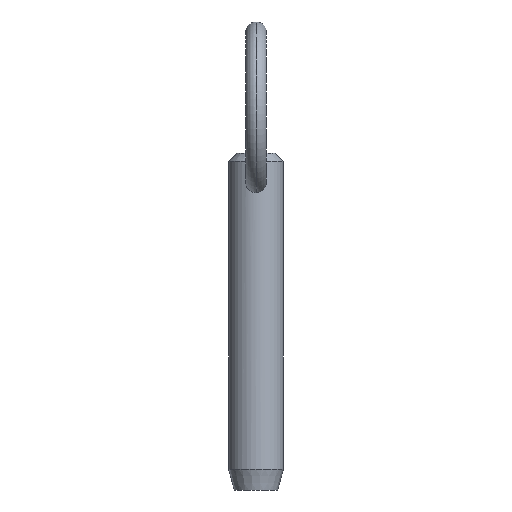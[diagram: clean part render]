
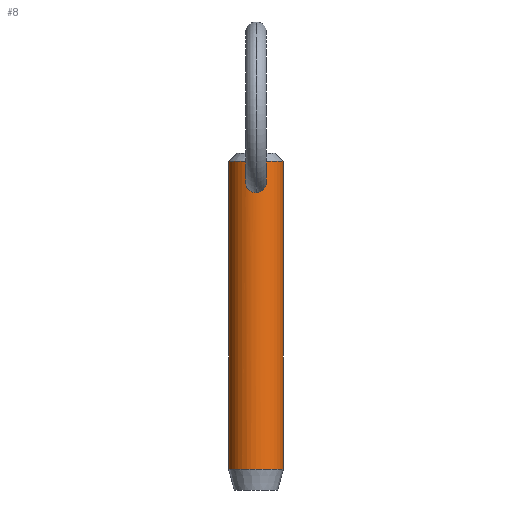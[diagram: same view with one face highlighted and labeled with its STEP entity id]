
A CAD part, front view. The second image highlights one B-rep face of the part: STEP entity #8.
In plain terms, the highlighted cylindrical face has radius 3.965 mm (diameter 7.93 mm), a partial arc.
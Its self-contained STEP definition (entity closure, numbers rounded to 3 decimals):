
#1 = EDGE_LOOP ( 'NONE', ( #259, #212, #114, #103 ) ) ;
#5 = CARTESIAN_POINT ( 'NONE',  ( 0.409, -3.948, 33.674 ) ) ;
#6 = DIRECTION ( 'NONE',  ( 0., 0., -1. ) ) ;
#8 = ADVANCED_FACE ( 'NONE', ( #295, #386 ), #202, .T. ) ;
#14 = CARTESIAN_POINT ( 'NONE',  ( -1.379, -3.718, 34.503 ) ) ;
#21 = CARTESIAN_POINT ( 'NONE',  ( -1.488, -3.675, 35.405 ) ) ;
#23 = CARTESIAN_POINT ( 'NONE',  ( -0.403, -3.946, 36.782 ) ) ;
#25 = CARTESIAN_POINT ( 'NONE',  ( 3.965, 0., 38.15 ) ) ;
#34 = VERTEX_POINT ( 'NONE', #128 ) ;
#36 = EDGE_CURVE ( 'NONE', #190, #323, #96, .T. ) ;
#42 = CARTESIAN_POINT ( 'NONE',  ( 1.493, -3.673, 35.304 ) ) ;
#50 = CARTESIAN_POINT ( 'NONE',  ( 0.205, -3.965, 33.635 ) ) ;
#53 = CARTESIAN_POINT ( 'NONE',  ( -1.441, -3.695, 35.608 ) ) ;
#56 = CARTESIAN_POINT ( 'NONE',  ( -1.335, -3.734, 34.41 ) ) ;
#57 = CARTESIAN_POINT ( 'NONE',  ( -1.48, -3.679, 34.789 ) ) ;
#58 = CARTESIAN_POINT ( 'NONE',  ( -0.77, -3.894, 36.6 ) ) ;
#60 = DIRECTION ( 'NONE',  ( 0., 0., -1. ) ) ;
#74 = CIRCLE ( 'NONE', #378, 3.965 ) ;
#76 = CARTESIAN_POINT ( 'NONE',  ( 1.186, -3.786, 36.159 ) ) ;
#77 = EDGE_CURVE ( 'NONE', #155, #34, #149, .T. ) ;
#78 = CARTESIAN_POINT ( 'NONE',  ( 1.503, -3.669, 35.099 ) ) ;
#83 = CARTESIAN_POINT ( 'NONE',  ( 0., 0., 33. ) ) ;
#86 = DIRECTION ( 'NONE',  ( -1., 0., 0. ) ) ;
#89 = CARTESIAN_POINT ( 'NONE',  ( 0., -3.965, 33.635 ) ) ;
#95 = CARTESIAN_POINT ( 'NONE',  ( -1.29, -3.75, 35.985 ) ) ;
#96 = CIRCLE ( 'NONE', #209, 3.965 ) ;
#98 = CARTESIAN_POINT ( 'NONE',  ( -0.206, -3.961, 36.834 ) ) ;
#103 = ORIENTED_EDGE ( 'NONE', *, *, #36, .T. ) ;
#114 = ORIENTED_EDGE ( 'NONE', *, *, #125, .T. ) ;
#117 = CARTESIAN_POINT ( 'NONE',  ( 1.346, -3.73, 34.408 ) ) ;
#121 = CARTESIAN_POINT ( 'NONE',  ( 0.205, -3.961, 36.834 ) ) ;
#124 = CARTESIAN_POINT ( 'NONE',  ( 0.102, -3.965, 36.847 ) ) ;
#125 = EDGE_CURVE ( 'NONE', #393, #190, #443, .T. ) ;
#128 = CARTESIAN_POINT ( 'NONE',  ( 0., -3.965, 36.847 ) ) ;
#139 = CARTESIAN_POINT ( 'NONE',  ( -0.957, -3.85, 33.941 ) ) ;
#142 = CARTESIAN_POINT ( 'NONE',  ( 3.965, 0., 33. ) ) ;
#149 = B_SPLINE_CURVE_WITH_KNOTS ( 'NONE', 3,
 ( #291, #331, #176, #296, #139, #419, #210, #56, #14, #57, #288, #21, #53, #95, #377, #178, #58, #332, #23, #98, #379, #326 ),
 .UNSPECIFIED., .F., .F.,
 ( 4, 2, 2, 2, 2, 2, 2, 2, 2, 2, 4 ),
 ( 0.009, 0.01, 0.01, 0.011, 0.011, 0.012, 0.012, 0.013, 0.013, 0.014, 0.014 ),
 .UNSPECIFIED. ) ;
#155 = VERTEX_POINT ( 'NONE', #426 ) ;
#159 = CARTESIAN_POINT ( 'NONE',  ( 1.434, -3.697, 35.605 ) ) ;
#163 = CARTESIAN_POINT ( 'NONE',  ( 1.237, -3.77, 34.231 ) ) ;
#164 = CARTESIAN_POINT ( 'NONE',  ( 0.77, -3.894, 36.6 ) ) ;
#176 = CARTESIAN_POINT ( 'NONE',  ( -0.41, -3.948, 33.674 ) ) ;
#178 = CARTESIAN_POINT ( 'NONE',  ( -0.925, -3.858, 36.468 ) ) ;
#180 = VERTEX_POINT ( 'NONE', #25 ) ;
#190 = VERTEX_POINT ( 'NONE', #389 ) ;
#198 = CARTESIAN_POINT ( 'NONE',  ( 0.498, -3.935, 36.744 ) ) ;
#199 = CARTESIAN_POINT ( 'NONE',  ( 1.471, -3.682, 34.794 ) ) ;
#200 = CARTESIAN_POINT ( 'NONE',  ( 1.028, -3.83, 34.015 ) ) ;
#202 = CYLINDRICAL_SURFACE ( 'NONE', #342, 3.965 ) ;
#209 = AXIS2_PLACEMENT_3D ( 'NONE', #418, #489, #450 ) ;
#210 = CARTESIAN_POINT ( 'NONE',  ( -1.229, -3.77, 34.239 ) ) ;
#212 = ORIENTED_EDGE ( 'NONE', *, *, #289, .T. ) ;
#216 = CARTESIAN_POINT ( 'NONE',  ( 0., 0., 38.15 ) ) ;
#224 = VECTOR ( 'NONE', #256, 1000. ) ;
#236 = LINE ( 'NONE', #142, #300 ) ;
#237 = CARTESIAN_POINT ( 'NONE',  ( 0.949, -3.851, 33.949 ) ) ;
#255 = DIRECTION ( 'NONE',  ( 1., 0., 0. ) ) ;
#256 = DIRECTION ( 'NONE',  ( 0., 0., -1. ) ) ;
#259 = ORIENTED_EDGE ( 'NONE', *, *, #270, .F. ) ;
#261 = CARTESIAN_POINT ( 'NONE',  ( 3.965, 0., -6.52 ) ) ;
#270 = EDGE_CURVE ( 'NONE', #180, #323, #236, .T. ) ;
#279 = CARTESIAN_POINT ( 'NONE',  ( 0.404, -3.946, 36.782 ) ) ;
#288 = CARTESIAN_POINT ( 'NONE',  ( -1.508, -3.667, 34.997 ) ) ;
#289 = EDGE_CURVE ( 'NONE', #180, #393, #74, .T. ) ;
#291 = CARTESIAN_POINT ( 'NONE',  ( 0., -3.965, 33.635 ) ) ;
#295 = FACE_OUTER_BOUND ( 'NONE', #1, .T. ) ;
#296 = CARTESIAN_POINT ( 'NONE',  ( -0.788, -3.891, 33.828 ) ) ;
#299 = CARTESIAN_POINT ( 'NONE',  ( -3.965, 0., 33. ) ) ;
#300 = VECTOR ( 'NONE', #60, 1000. ) ;
#305 = CARTESIAN_POINT ( 'NONE',  ( -3.965, 0., 38.15 ) ) ;
#313 = CARTESIAN_POINT ( 'NONE',  ( 1.291, -3.75, 35.983 ) ) ;
#323 = VERTEX_POINT ( 'NONE', #261 ) ;
#326 = CARTESIAN_POINT ( 'NONE',  ( 0., -3.965, 36.847 ) ) ;
#331 = CARTESIAN_POINT ( 'NONE',  ( -0.205, -3.965, 33.635 ) ) ;
#332 = CARTESIAN_POINT ( 'NONE',  ( -0.498, -3.935, 36.744 ) ) ;
#341 = ORIENTED_EDGE ( 'NONE', *, *, #495, .T. ) ;
#342 = AXIS2_PLACEMENT_3D ( 'NONE', #83, #6, #86 ) ;
#359 = CARTESIAN_POINT ( 'NONE',  ( 1.447, -3.692, 34.693 ) ) ;
#377 = CARTESIAN_POINT ( 'NONE',  ( -1.186, -3.786, 36.16 ) ) ;
#378 = AXIS2_PLACEMENT_3D ( 'NONE', #216, #494, #255 ) ;
#379 = CARTESIAN_POINT ( 'NONE',  ( -0.102, -3.965, 36.847 ) ) ;
#383 = B_SPLINE_CURVE_WITH_KNOTS ( 'NONE', 3,
 ( #477, #124, #121, #279, #198, #164, #440, #76, #313, #469, #159, #476, #42, #78, #436, #199, #359, #117, #163, #200, #237, #475, #513, #5, #50, #89 ),
 .UNSPECIFIED., .F., .F.,
 ( 4, 2, 2, 2, 2, 2, 2, 2, 2, 2, 2, 2, 4 ),
 ( 0.004, 0.005, 0.005, 0.005, 0.006, 0.006, 0.007, 0.007, 0.007, 0.008, 0.008, 0.008, 0.009 ),
 .UNSPECIFIED. ) ;
#386 = FACE_BOUND ( 'NONE', #405, .T. ) ;
#389 = CARTESIAN_POINT ( 'NONE',  ( -3.965, 0., -6.52 ) ) ;
#393 = VERTEX_POINT ( 'NONE', #305 ) ;
#405 = EDGE_LOOP ( 'NONE', ( #341, #415 ) ) ;
#415 = ORIENTED_EDGE ( 'NONE', *, *, #77, .T. ) ;
#418 = CARTESIAN_POINT ( 'NONE',  ( 0., 0., -6.52 ) ) ;
#419 = CARTESIAN_POINT ( 'NONE',  ( -1.168, -3.79, 34.159 ) ) ;
#426 = CARTESIAN_POINT ( 'NONE',  ( 0., -3.965, 33.635 ) ) ;
#436 = CARTESIAN_POINT ( 'NONE',  ( 1.499, -3.671, 34.997 ) ) ;
#440 = CARTESIAN_POINT ( 'NONE',  ( 0.925, -3.858, 36.468 ) ) ;
#443 = LINE ( 'NONE', #299, #224 ) ;
#450 = DIRECTION ( 'NONE',  ( -1., 0., 0. ) ) ;
#469 = CARTESIAN_POINT ( 'NONE',  ( 1.404, -3.708, 35.701 ) ) ;
#475 = CARTESIAN_POINT ( 'NONE',  ( 0.782, -3.888, 33.837 ) ) ;
#476 = CARTESIAN_POINT ( 'NONE',  ( 1.479, -3.679, 35.407 ) ) ;
#477 = CARTESIAN_POINT ( 'NONE',  ( 0., -3.965, 36.847 ) ) ;
#489 = DIRECTION ( 'NONE',  ( 0., 0., 1. ) ) ;
#494 = DIRECTION ( 'NONE',  ( 0., 0., -1. ) ) ;
#495 = EDGE_CURVE ( 'NONE', #34, #155, #383, .T. ) ;
#513 = CARTESIAN_POINT ( 'NONE',  ( 0.693, -3.905, 33.79 ) ) ;
